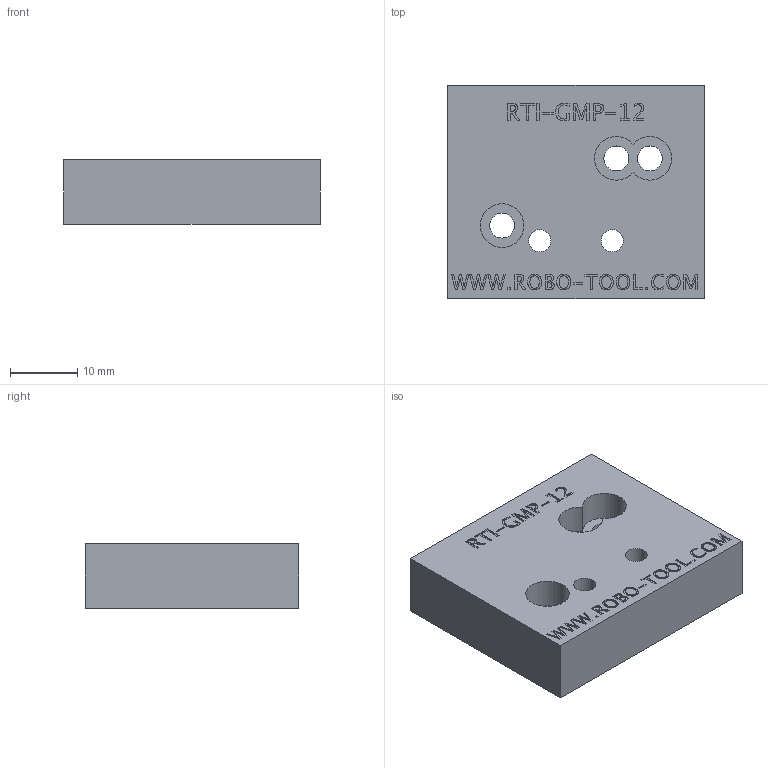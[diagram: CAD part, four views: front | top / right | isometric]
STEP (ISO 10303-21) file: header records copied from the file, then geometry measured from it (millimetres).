
FILE_DESCRIPTION (( 'STEP AP214' ), '1' );
FILE_NAME ('RTI-GMP-12.STEP', '2013-10-22T14:15:48', ( 'user' ), ( '' ), 'SwSTEP 2.0', 'SolidWorks 2009', '' );
FILE_SCHEMA (( 'AUTOMOTIVE_DESIGN' ));
Length unit declared in the file: inch
Products named in the file (1): RTI-GMP-12
Bounding box: 38.1 x 31.75 x 9.53 mm (x, y, z)
Volume: 10763.3 mm3; surface area: 4294.6 mm2
Topology: 1 solids, 1 shells, 319 faces, 834 edges, 556 vertices
Faces by surface type: plane 218, bspline 86, cylinder 15
Entity records: 18551 total; most frequent: CARTESIAN_POINT 7428, ORIENTED_EDGE 1668, DIRECTION 1160, EDGE_CURVE 834, LINE 632, VECTOR 632, VERTEX_POINT 556, EDGE_LOOP 368
